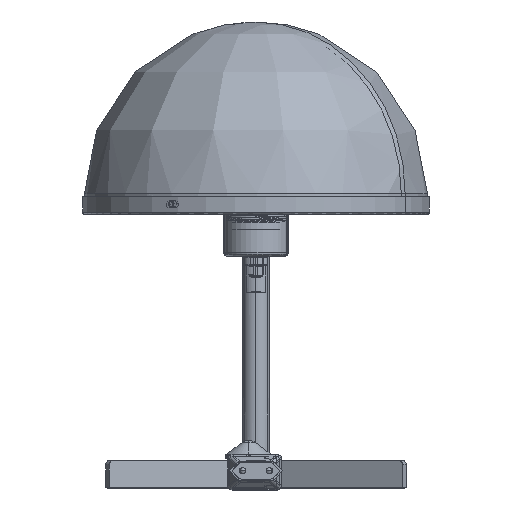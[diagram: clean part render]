
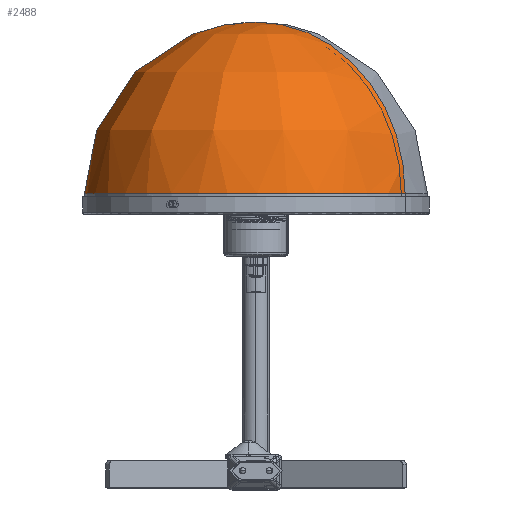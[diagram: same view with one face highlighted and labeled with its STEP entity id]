
A CAD part, left-side view. The second image highlights one B-rep face of the part: STEP entity #2488.
In plain terms, the highlighted free-form (B-spline) face has degree [2, 2] with [5, 9] control points.
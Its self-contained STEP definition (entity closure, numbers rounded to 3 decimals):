
#291=(
BOUNDED_SURFACE()
B_SPLINE_SURFACE(2,2,((#55228,#55229,#55230,#55231,#55232,#55233,#55234,
#55235,#55236),(#55237,#55238,#55239,#55240,#55241,#55242,#55243,#55244,
#55245),(#55246,#55247,#55248,#55249,#55250,#55251,#55252,#55253,#55254),
(#55255,#55256,#55257,#55258,#55259,#55260,#55261,#55262,#55263),(#55264,
#55265,#55266,#55267,#55268,#55269,#55270,#55271,#55272)),.UNSPECIFIED.,
 .F.,.F.,.F.)
B_SPLINE_SURFACE_WITH_KNOTS((3,2,3),(3,2,2,2,3),(0.,1.571,3.142),
(2.749,3.632,4.516,5.4,6.283),
 .UNSPECIFIED.)
GEOMETRIC_REPRESENTATION_ITEM()
RATIONAL_B_SPLINE_SURFACE(((1.,0.904,1.,0.904,1.,
0.904,1.,0.904,1.),(0.707,0.639,
0.707,0.639,0.707,0.639,
0.707,0.639,0.707),(1.,0.904,
1.,0.904,1.,0.904,1.,0.904,1.),(0.707,
0.639,0.707,0.639,0.707,
0.639,0.707,0.639,0.707),
(1.,0.904,1.,0.904,1.,0.904,1.,0.904,
1.)))
REPRESENTATION_ITEM('')
SURFACE()
);
#2488=ADVANCED_FACE('',(#3758),#291,.T.);
#3758=FACE_OUTER_BOUND('',#5078,.T.);
#5078=EDGE_LOOP('',(#8596,#8597,#8598));
#8596=ORIENTED_EDGE('',*,*,#13079,.F.);
#8597=ORIENTED_EDGE('',*,*,#13080,.F.);
#8598=ORIENTED_EDGE('',*,*,#13078,.F.);
#13078=EDGE_CURVE('',#23047,#23049,#19270,.T.);
#13079=EDGE_CURVE('',#23048,#23047,#19271,.T.);
#13080=EDGE_CURVE('',#23049,#23048,#19272,.T.);
#19270=TRIMMED_CURVE($,#20960,(#55322),(#55323),.T.,.CARTESIAN.);
#19271=TRIMMED_CURVE($,#20961,(#55325),(#55326),.T.,.CARTESIAN.);
#19272=TRIMMED_CURVE($,#20962,(#55328),(#55329),.T.,.CARTESIAN.);
#20960=CIRCLE('',#27960,115.);
#20961=CIRCLE('',#27961,115.);
#20962=CIRCLE('',#27962,115.);
#23047=VERTEX_POINT('',#55318);
#23048=VERTEX_POINT('',#55319);
#23049=VERTEX_POINT('',#55320);
#27960=AXIS2_PLACEMENT_3D($,#55321,#31371,#31372);
#27961=AXIS2_PLACEMENT_3D($,#55324,#31373,#31374);
#27962=AXIS2_PLACEMENT_3D($,#55327,#31375,#31376);
#31371=DIRECTION('',(-0.87,0.494,0.));
#31372=DIRECTION('',(0.,0.,1.));
#31373=DIRECTION('',(-0.87,0.494,0.));
#31374=DIRECTION('',(-0.494,-0.87,0.));
#31375=DIRECTION('',(0.,0.,1.));
#31376=DIRECTION('',(0.494,0.87,0.));
#55228=CARTESIAN_POINT('',(53.417,96.735,83.85));
#55229=CARTESIAN_POINT('',(53.417,96.735,83.85));
#55230=CARTESIAN_POINT('',(53.417,96.735,83.85));
#55231=CARTESIAN_POINT('',(53.417,96.735,83.85));
#55232=CARTESIAN_POINT('',(53.417,96.735,83.85));
#55233=CARTESIAN_POINT('',(53.417,96.735,83.85));
#55234=CARTESIAN_POINT('',(53.417,96.735,83.85));
#55235=CARTESIAN_POINT('',(53.417,96.735,83.85));
#55236=CARTESIAN_POINT('',(53.417,96.735,83.85));
#55237=CARTESIAN_POINT('',(144.157,167.383,83.85));
#55238=CARTESIAN_POINT('',(110.743,210.3,83.85));
#55239=CARTESIAN_POINT('',(56.37,211.697,83.85));
#55240=CARTESIAN_POINT('',(1.997,213.093,83.85));
#55241=CARTESIAN_POINT('',(-33.577,171.948,83.85));
#55242=CARTESIAN_POINT('',(-69.15,130.803,83.85));
#55243=CARTESIAN_POINT('',(-59.912,77.203,83.85));
#55244=CARTESIAN_POINT('',(-50.674,23.602,83.85));
#55245=CARTESIAN_POINT('',(-3.38,-3.261,83.85));
#55246=CARTESIAN_POINT('',(144.157,167.383,198.85));
#55247=CARTESIAN_POINT('',(110.743,210.3,198.85));
#55248=CARTESIAN_POINT('',(56.37,211.697,198.85));
#55249=CARTESIAN_POINT('',(1.997,213.093,198.85));
#55250=CARTESIAN_POINT('',(-33.577,171.948,198.85));
#55251=CARTESIAN_POINT('',(-69.15,130.803,198.85));
#55252=CARTESIAN_POINT('',(-59.912,77.203,198.85));
#55253=CARTESIAN_POINT('',(-50.674,23.602,198.85));
#55254=CARTESIAN_POINT('',(-3.38,-3.261,198.85));
#55255=CARTESIAN_POINT('',(144.157,167.383,313.85));
#55256=CARTESIAN_POINT('',(110.743,210.3,313.85));
#55257=CARTESIAN_POINT('',(56.37,211.697,313.85));
#55258=CARTESIAN_POINT('',(1.997,213.093,313.85));
#55259=CARTESIAN_POINT('',(-33.577,171.948,313.85));
#55260=CARTESIAN_POINT('',(-69.15,130.803,313.85));
#55261=CARTESIAN_POINT('',(-59.912,77.203,313.85));
#55262=CARTESIAN_POINT('',(-50.674,23.602,313.85));
#55263=CARTESIAN_POINT('',(-3.38,-3.261,313.85));
#55264=CARTESIAN_POINT('',(53.417,96.735,313.85));
#55265=CARTESIAN_POINT('',(53.417,96.735,313.85));
#55266=CARTESIAN_POINT('',(53.417,96.735,313.85));
#55267=CARTESIAN_POINT('',(53.417,96.735,313.85));
#55268=CARTESIAN_POINT('',(53.417,96.735,313.85));
#55269=CARTESIAN_POINT('',(53.417,96.735,313.85));
#55270=CARTESIAN_POINT('',(53.417,96.735,313.85));
#55271=CARTESIAN_POINT('',(53.417,96.735,313.85));
#55272=CARTESIAN_POINT('',(53.417,96.735,313.85));
#55318=CARTESIAN_POINT('',(53.417,96.735,313.85));
#55319=CARTESIAN_POINT('',(-3.38,-3.261,198.85));
#55320=CARTESIAN_POINT('',(110.214,196.73,198.85));
#55321=CARTESIAN_POINT('',(53.417,96.735,198.85));
#55322=CARTESIAN_POINT('',(53.417,96.735,313.85));
#55323=CARTESIAN_POINT('',(110.214,196.73,198.85));
#55324=CARTESIAN_POINT('',(53.417,96.735,198.85));
#55325=CARTESIAN_POINT('',(-3.38,-3.261,198.85));
#55326=CARTESIAN_POINT('',(53.417,96.735,313.85));
#55327=CARTESIAN_POINT('',(53.417,96.735,198.85));
#55328=CARTESIAN_POINT('',(110.214,196.73,198.85));
#55329=CARTESIAN_POINT('',(-3.38,-3.261,198.85));
